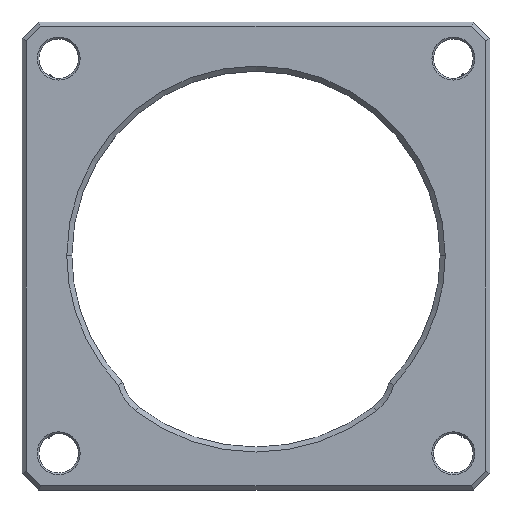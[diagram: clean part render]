
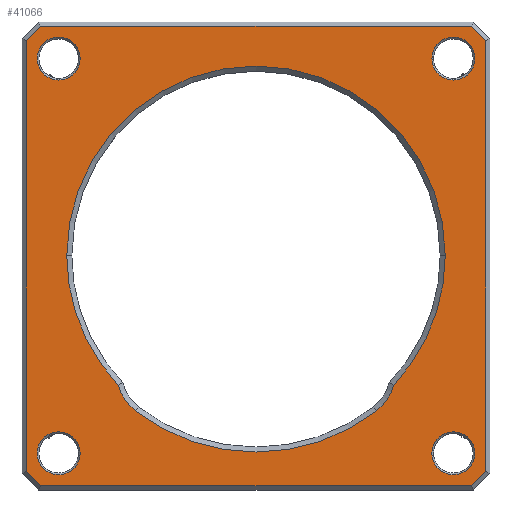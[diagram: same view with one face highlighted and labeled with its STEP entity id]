
A CAD part, top view. The second image highlights one B-rep face of the part: STEP entity #41066.
In plain terms, the highlighted planar face has unit normal (0, 0, 1).
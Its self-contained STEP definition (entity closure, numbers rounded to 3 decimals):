
#28530=DIRECTION('',(0.,-1.,0.));
#28531=VECTOR('',#28530,65.514);
#28532=CARTESIAN_POINT('',(25.466,35.351,9.579));
#28533=LINE('',#28532,#28531);
#28546=DIRECTION('',(-0.707,-0.707,0.));
#28547=VECTOR('',#28546,3.066);
#28548=CARTESIAN_POINT('',(-42.216,37.519,
9.579));
#28549=LINE('',#28548,#28547);
#28550=DIRECTION('',(-0.707,0.707,0.));
#28551=VECTOR('',#28550,3.066);
#28552=CARTESIAN_POINT('',(25.466,35.351,9.579));
#28553=LINE('',#28552,#28551);
#28554=DIRECTION('',(0.707,0.707,0.));
#28555=VECTOR('',#28554,3.066);
#28556=CARTESIAN_POINT('',(23.298,-32.331,
9.579));
#28557=LINE('',#28556,#28555);
#28558=DIRECTION('',(0.707,-0.707,0.));
#28559=VECTOR('',#28558,3.066);
#28560=CARTESIAN_POINT('',(-44.384,-30.163,
9.579));
#28561=LINE('',#28560,#28559);
#28562=CARTESIAN_POINT('',(-39.459,-27.406,
9.579));
#28563=DIRECTION('',(0.,0.,-1.));
#28564=DIRECTION('',(1.,0.,0.));
#28565=AXIS2_PLACEMENT_3D('',#28562,#28563,#28564);
#28567=CARTESIAN_POINT('',(-39.459,-27.406,
9.579));
#28568=DIRECTION('',(0.,0.,-1.));
#28569=DIRECTION('',(-1.,0.,0.));
#28570=AXIS2_PLACEMENT_3D('',#28567,#28568,#28569);
#28572=CARTESIAN_POINT('',(20.541,-27.406,
9.579));
#28573=DIRECTION('',(0.,0.,-1.));
#28574=DIRECTION('',(1.,0.,0.));
#28575=AXIS2_PLACEMENT_3D('',#28572,#28573,#28574);
#28577=CARTESIAN_POINT('',(20.541,-27.406,
9.579));
#28578=DIRECTION('',(0.,0.,-1.));
#28579=DIRECTION('',(-1.,0.,0.));
#28580=AXIS2_PLACEMENT_3D('',#28577,#28578,#28579);
#28582=CARTESIAN_POINT('',(20.543,32.594,9.579));
#28583=DIRECTION('',(0.,0.,-1.));
#28584=DIRECTION('',(1.,0.,0.));
#28585=AXIS2_PLACEMENT_3D('',#28582,#28583,#28584);
#28587=CARTESIAN_POINT('',(20.543,32.594,9.579));
#28588=DIRECTION('',(0.,0.,-1.));
#28589=DIRECTION('',(-1.,0.,0.));
#28590=AXIS2_PLACEMENT_3D('',#28587,#28588,#28589);
#28592=CARTESIAN_POINT('',(-39.457,32.594,
9.579));
#28593=DIRECTION('',(0.,0.,-1.));
#28594=DIRECTION('',(1.,0.,0.));
#28595=AXIS2_PLACEMENT_3D('',#28592,#28593,#28594);
#28597=CARTESIAN_POINT('',(-39.457,32.594,
9.579));
#28598=DIRECTION('',(0.,0.,-1.));
#28599=DIRECTION('',(-1.,0.,0.));
#28600=AXIS2_PLACEMENT_3D('',#28597,#28598,#28599);
#28602=CARTESIAN_POINT('',(4.316,-15.094,
9.579));
#28603=DIRECTION('',(0.,0.,-1.));
#28604=DIRECTION('',(0.965,-0.263,0.));
#28605=AXIS2_PLACEMENT_3D('',#28602,#28603,#28604);
#28607=CARTESIAN_POINT('',(-9.459,2.686,
9.579));
#28608=DIRECTION('',(0.,0.,-1.));
#28609=DIRECTION('',(1.,0.,0.));
#28610=AXIS2_PLACEMENT_3D('',#28607,#28608,#28609);
#28612=CARTESIAN_POINT('',(-9.459,2.686,
9.579));
#28613=DIRECTION('',(0.,0.,-1.));
#28614=DIRECTION('',(-1.,0.,0.));
#28615=AXIS2_PLACEMENT_3D('',#28612,#28613,#28614);
#28617=CARTESIAN_POINT('',(-9.459,2.686,
9.579));
#28618=DIRECTION('',(0.,0.,-1.));
#28619=DIRECTION('',(-0.728,-0.686,0.));
#28620=AXIS2_PLACEMENT_3D('',#28617,#28618,#28619);
#28622=CARTESIAN_POINT('',(-23.234,-15.094,
9.579));
#28623=DIRECTION('',(0.,0.,-1.));
#28624=DIRECTION('',(-0.612,-0.791,0.));
#28625=AXIS2_PLACEMENT_3D('',#28622,#28623,#28624);
#28627=CARTESIAN_POINT('',(-9.459,2.686,
9.579));
#28628=DIRECTION('',(0.,0.,-1.));
#28629=DIRECTION('',(0.612,-0.791,0.));
#28630=AXIS2_PLACEMENT_3D('',#28627,#28628,#28629);
#28632=DIRECTION('',(0.,1.,0.));
#28633=VECTOR('',#28632,65.514);
#28634=CARTESIAN_POINT('',(-44.384,-30.163,
9.579));
#28635=LINE('',#28634,#28633);
#28652=DIRECTION('',(1.,0.,0.));
#28653=VECTOR('',#28652,65.514);
#28654=CARTESIAN_POINT('',(-42.216,37.519,
9.579));
#28655=LINE('',#28654,#28653);
#28676=DIRECTION('',(-1.,0.,0.));
#28677=VECTOR('',#28676,65.514);
#28678=CARTESIAN_POINT('',(23.298,-32.331,
9.579));
#28679=LINE('',#28678,#28677);
#35396=CARTESIAN_POINT('',(11.471,-17.047,
9.579));
#35422=CARTESIAN_POINT('',(-30.389,-17.047,
9.579));
#40085=CARTESIAN_POINT('',(25.466,-30.163,
9.579));
#40087=VERTEX_POINT('',#40085);
#40109=VERTEX_POINT('',#35396);
#40114=CARTESIAN_POINT('',(-42.216,-32.331,
9.579));
#40116=VERTEX_POINT('',#40114);
#40120=CARTESIAN_POINT('',(19.306,2.686,9.579));
#40122=VERTEX_POINT('',#40120);
#40124=CARTESIAN_POINT('',(-42.216,37.519,
9.579));
#40125=CARTESIAN_POINT('',(23.298,37.519,9.579));
#40126=VERTEX_POINT('',#40124);
#40127=VERTEX_POINT('',#40125);
#40136=VERTEX_POINT('',#35422);
#40145=CARTESIAN_POINT('',(-27.776,-20.958,
9.579));
#40147=VERTEX_POINT('',#40145);
#40156=CARTESIAN_POINT('',(23.805,-27.406,
9.579));
#40157=CARTESIAN_POINT('',(17.277,-27.406,
9.579));
#40158=VERTEX_POINT('',#40156);
#40159=VERTEX_POINT('',#40157);
#40168=CARTESIAN_POINT('',(-44.384,-30.163,
9.579));
#40169=CARTESIAN_POINT('',(-44.384,35.351,
9.579));
#40170=VERTEX_POINT('',#40168);
#40171=VERTEX_POINT('',#40169);
#40172=CARTESIAN_POINT('',(23.298,-32.331,
9.579));
#40174=VERTEX_POINT('',#40172);
#40176=CARTESIAN_POINT('',(8.858,-20.957,
9.579));
#40177=VERTEX_POINT('',#40176);
#40178=CARTESIAN_POINT('',(25.466,35.351,9.579));
#40179=VERTEX_POINT('',#40178);
#40190=CARTESIAN_POINT('',(-36.193,32.594,
9.579));
#40191=CARTESIAN_POINT('',(-42.721,32.594,
9.579));
#40192=VERTEX_POINT('',#40190);
#40193=VERTEX_POINT('',#40191);
#40194=CARTESIAN_POINT('',(-36.195,-27.406,
9.579));
#40195=CARTESIAN_POINT('',(-42.723,-27.406,
9.579));
#40196=VERTEX_POINT('',#40194);
#40197=VERTEX_POINT('',#40195);
#40202=CARTESIAN_POINT('',(-38.225,2.686,
9.579));
#40203=VERTEX_POINT('',#40202);
#40224=CARTESIAN_POINT('',(23.807,32.594,9.579));
#40226=VERTEX_POINT('',#40224);
#40246=CARTESIAN_POINT('',(17.279,32.594,9.579));
#40247=VERTEX_POINT('',#40246);
#41007=CARTESIAN_POINT('',(-45.019,-32.966,
9.579));
#41008=DIRECTION('',(0.,0.,1.));
#41009=DIRECTION('',(1.,0.,0.));
#41010=AXIS2_PLACEMENT_3D('',#41007,#41008,#41009);
#41011=PLANE('',#41010);
#41013=ORIENTED_EDGE('',*,*,#41012,.T.);
#41015=ORIENTED_EDGE('',*,*,#41014,.F.);
#41017=ORIENTED_EDGE('',*,*,#41016,.T.);
#41018=ORIENTED_EDGE('',*,*,#40999,.F.);
#41019=ORIENTED_EDGE('',*,*,#40988,.T.);
#41021=ORIENTED_EDGE('',*,*,#41020,.F.);
#41023=ORIENTED_EDGE('',*,*,#41022,.T.);
#41025=ORIENTED_EDGE('',*,*,#41024,.F.);
#41026=EDGE_LOOP('',(#41013,#41015,#41017,#41018,#41019,#41021,#41023,#41025));
#41027=FACE_OUTER_BOUND('',#41026,.F.);
#41029=ORIENTED_EDGE('',*,*,#41028,.F.);
#41031=ORIENTED_EDGE('',*,*,#41030,.F.);
#41032=EDGE_LOOP('',(#41029,#41031));
#41033=FACE_BOUND('',#41032,.F.);
#41035=ORIENTED_EDGE('',*,*,#41034,.F.);
#41037=ORIENTED_EDGE('',*,*,#41036,.F.);
#41038=EDGE_LOOP('',(#41035,#41037));
#41039=FACE_BOUND('',#41038,.F.);
#41041=ORIENTED_EDGE('',*,*,#41040,.F.);
#41043=ORIENTED_EDGE('',*,*,#41042,.F.);
#41044=EDGE_LOOP('',(#41041,#41043));
#41045=FACE_BOUND('',#41044,.F.);
#41047=ORIENTED_EDGE('',*,*,#41046,.F.);
#41049=ORIENTED_EDGE('',*,*,#41048,.F.);
#41050=EDGE_LOOP('',(#41047,#41049));
#41051=FACE_BOUND('',#41050,.F.);
#41053=ORIENTED_EDGE('',*,*,#41052,.F.);
#41055=ORIENTED_EDGE('',*,*,#41054,.F.);
#41057=ORIENTED_EDGE('',*,*,#41056,.F.);
#41059=ORIENTED_EDGE('',*,*,#41058,.F.);
#41061=ORIENTED_EDGE('',*,*,#41060,.F.);
#41063=ORIENTED_EDGE('',*,*,#41062,.F.);
#41064=EDGE_LOOP('',(#41053,#41055,#41057,#41059,#41061,#41063));
#41065=FACE_BOUND('',#41064,.F.);
#41066=ADVANCED_FACE('',(#41027,#41033,#41039,#41045,#41051,#41065),#41011,.T.);
#28566=CIRCLE('',#28565,3.264);
#28571=CIRCLE('',#28570,3.264);
#28576=CIRCLE('',#28575,3.264);
#28581=CIRCLE('',#28580,3.264);
#28586=CIRCLE('',#28585,3.264);
#28591=CIRCLE('',#28590,3.264);
#28596=CIRCLE('',#28595,3.264);
#28601=CIRCLE('',#28600,3.264);
#28606=CIRCLE('',#28605,7.417);
#28611=CIRCLE('',#28610,28.766);
#28616=CIRCLE('',#28615,28.766);
#28621=CIRCLE('',#28620,28.766);
#28626=CIRCLE('',#28625,7.417);
#28631=CIRCLE('',#28630,29.909);
#40988=EDGE_CURVE('',#40179,#40087,#28533,.T.);
#40999=EDGE_CURVE('',#40179,#40127,#28553,.T.);
#41012=EDGE_CURVE('',#40170,#40171,#28635,.T.);
#41014=EDGE_CURVE('',#40126,#40171,#28549,.T.);
#41016=EDGE_CURVE('',#40126,#40127,#28655,.T.);
#41020=EDGE_CURVE('',#40174,#40087,#28557,.T.);
#41022=EDGE_CURVE('',#40174,#40116,#28679,.T.);
#41024=EDGE_CURVE('',#40170,#40116,#28561,.T.);
#41028=EDGE_CURVE('',#40196,#40197,#28566,.T.);
#41030=EDGE_CURVE('',#40197,#40196,#28571,.T.);
#41034=EDGE_CURVE('',#40158,#40159,#28576,.T.);
#41036=EDGE_CURVE('',#40159,#40158,#28581,.T.);
#41040=EDGE_CURVE('',#40226,#40247,#28586,.T.);
#41042=EDGE_CURVE('',#40247,#40226,#28591,.T.);
#41046=EDGE_CURVE('',#40192,#40193,#28596,.T.);
#41048=EDGE_CURVE('',#40193,#40192,#28601,.T.);
#41052=EDGE_CURVE('',#40109,#40177,#28606,.T.);
#41054=EDGE_CURVE('',#40122,#40109,#28611,.T.);
#41056=EDGE_CURVE('',#40203,#40122,#28616,.T.);
#41058=EDGE_CURVE('',#40136,#40203,#28621,.T.);
#41060=EDGE_CURVE('',#40147,#40136,#28626,.T.);
#41062=EDGE_CURVE('',#40177,#40147,#28631,.T.);
